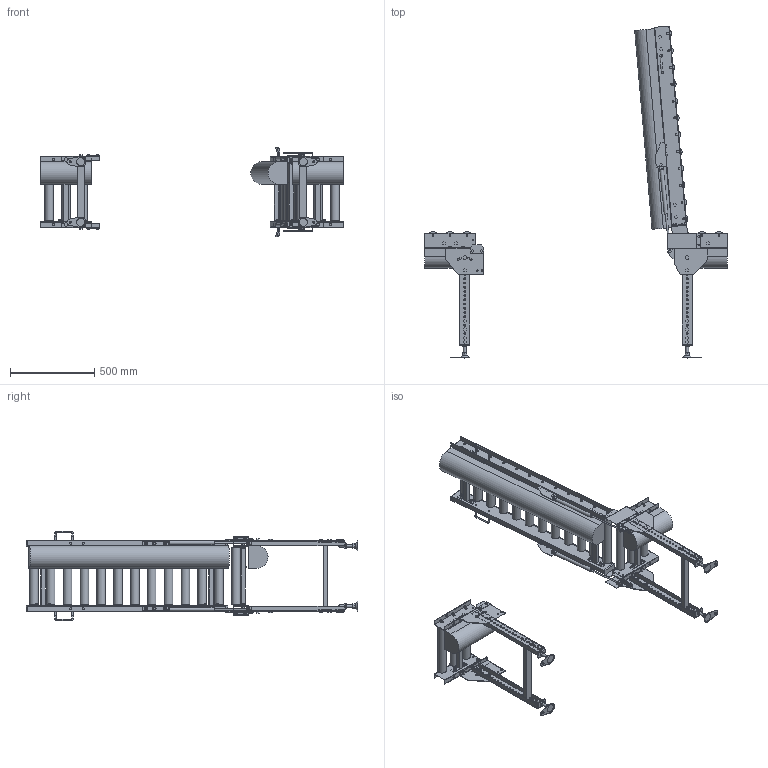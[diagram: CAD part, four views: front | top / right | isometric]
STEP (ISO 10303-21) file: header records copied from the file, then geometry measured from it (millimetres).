
FILE_DESCRIPTION (( 'STEP AP214' ), '1' );
FILE_NAME ('MCD50HU-L-355-100-1200.STEP', '2022-11-17T05:20:41', ( '' ), ( '' ), 'SwSTEP 2.0', 'SolidWorks 2017', '' );
FILE_SCHEMA (( 'AUTOMOTIVE_DESIGN' ));
Length unit declared in the file: millimetre
Products named in the file (1): MCD50HU-L-355-100-1200
Bounding box: 1791.65 x 1964.71 x 531.4 mm (x, y, z)
Volume: 42924005.2 mm3; surface area: 4389565.7 mm2
Topology: 5 solids, 31 shells, 2589 faces, 6418 edges, 4083 vertices
Faces by surface type: plane 2128, cylinder 443, cone 10, torus 8
Full cylindrical faces by diameter (mm): 8 x8, 8.5 x8, 9 x20, 10 x58, 10.5 x96, 11 x8, 12 x38, 13 x12, 14 x4, 15 x6, 15.4 x2, 15.7 x2, 16 x10, 17 x4, 18 x6, 18.4 x28, 18.5 x8, 21 x12, 22 x2, 50.8 x18
Entity records: 74604 total; most frequent: CARTESIAN_POINT 12747, DIRECTION 12472, ORIENTED_EDGE 11740, EDGE_CURVE 5870, LINE 4440, VECTOR 4440, AXIS2_PLACEMENT_3D 4016, VERTEX_POINT 3903
